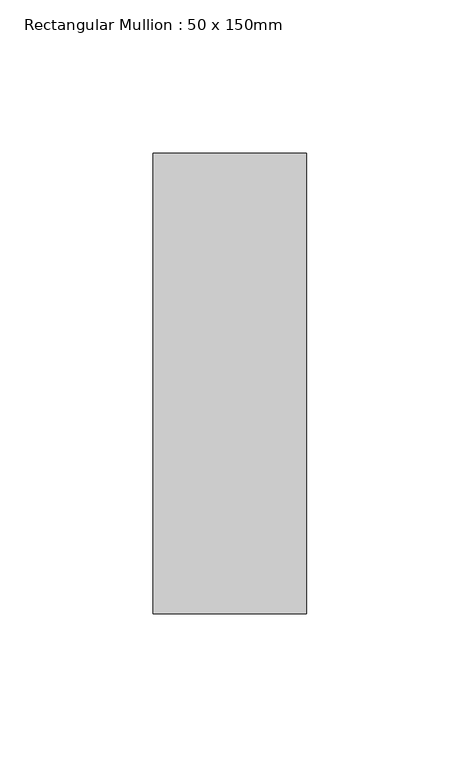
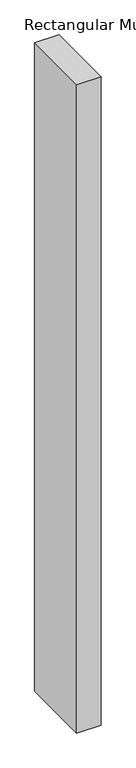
"""IFC4 building model written with IfcOpenShell, lengths in millimetres: member geometry, Rectangular Mullion : 50 x 150mm."""

from ifc_helpers import new_model, si_unit, frame, origin, place, context, project, spatial, polyline, outline, extrude, source, transform, mapped, element, save


def rectangular_mullion_50_x_150mm_e9cef0e0(model_context):
    return source(origin(), model_context, "Body", "SweptSolid", [
        extrude(outline(polyline([(0.0, 75.0), (0.0, -75.0), (-50.0, -75.0), (-50.0, 75.0), (0.0, 75.0)])), frame((0.0, 0.0, -1411.1111112), z_axis=(0.0, 0.0, 1.0), x_axis=(1.0, 0.0, 0.0)), (0.0, 0.0, 1.0), 1411.1111112),
    ])


if __name__ == "__main__":
    model = new_model("IFC4")
    model_context = context("Model", 3, world=origin())
    ifc_project = project(units=[si_unit("LENGTHUNIT", "METRE", prefix="MILLI")], contexts=[model_context])
    site = spatial("IfcSite", under=ifc_project)
    building = spatial("IfcBuilding", under=site)
    placement = place(None, origin())
    rectangular_mullion_50_x_150mm_shape = rectangular_mullion_50_x_150mm_e9cef0e0(model_context)
    element("IfcMember", 1, ObjectType="Rectangular Mullion : 50 x 150mm", at=placement, inside=building, context=model_context, shape_type="MappedRepresentation", body=[
        mapped(rectangular_mullion_50_x_150mm_shape, transform((0.0, 0.0, 0.0), x_axis=(1.0, 0.0, 0.0), y_axis=(0.0, 1.0, 0.0), z_axis=(0.0, 0.0, 1.0))),
    ])
    save(model, "model.ifc")
